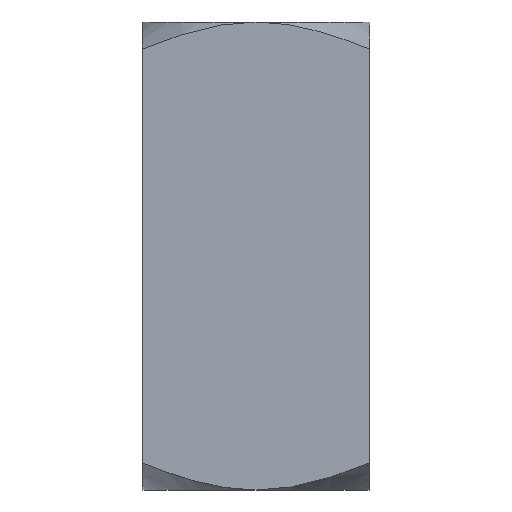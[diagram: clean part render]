
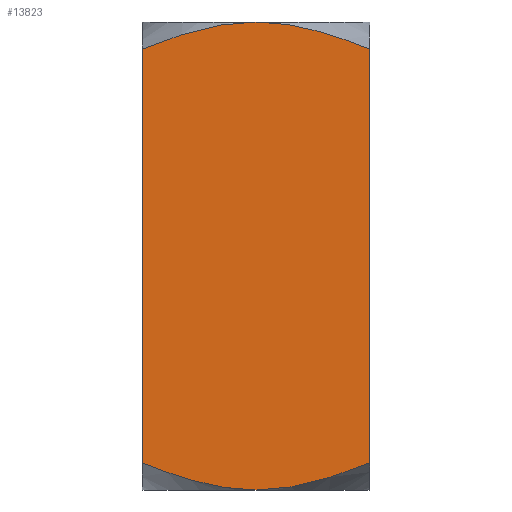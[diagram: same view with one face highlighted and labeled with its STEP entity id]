
A CAD part, front view. The second image highlights one B-rep face of the part: STEP entity #13823.
In plain terms, the highlighted planar face has unit normal (0, -1, 0).
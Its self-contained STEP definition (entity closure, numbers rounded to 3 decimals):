
#400 = CARTESIAN_POINT ( 'NONE',  ( 32.5, -32.5, -7.772 ) ) ;
#755 = CARTESIAN_POINT ( 'NONE',  ( 17.912, -32.5, -2.65 ) ) ;
#1014 = CARTESIAN_POINT ( 'NONE',  ( -1.402, -32.5, -133.987 ) ) ;
#1499 = CARTESIAN_POINT ( 'NONE',  ( -27.289, -32.5, -5.707 ) ) ;
#1616 = VERTEX_POINT ( 'NONE', #16287 ) ;
#2545 = VERTEX_POINT ( 'NONE', #16923 ) ;
#3265 = CARTESIAN_POINT ( 'NONE',  ( 0., -32.5, 0. ) ) ;
#3328 = AXIS2_PLACEMENT_3D ( 'NONE', #28530, #11454, #31356 ) ;
#3405 = CARTESIAN_POINT ( 'NONE',  ( 2.822, -32.5, -134. ) ) ;
#3648 = CARTESIAN_POINT ( 'NONE',  ( 11.123, -32.5, -1.009 ) ) ;
#3772 = CARTESIAN_POINT ( 'NONE',  ( -32.5, -32.5, -126.228 ) ) ;
#3896 = CARTESIAN_POINT ( 'NONE',  ( 0., -32.5, -134. ) ) ;
#4366 = CARTESIAN_POINT ( 'NONE',  ( -32.5, -32.5, -7.772 ) ) ;
#4522 = B_SPLINE_CURVE_WITH_KNOTS ( 'NONE', 3,
 ( #21379, #24007, #7152, #27101, #10021, #29966, #12896, #32777, #15768, #35600, #18641, #1499, #21502, #4366 ),
 .UNSPECIFIED., .F., .F.,
 ( 4, 2, 2, 2, 2, 2, 4 ),
 ( 0.118, 0.12, 0.122, 0.126, 0.135, 0.143, 0.151 ),
 .UNSPECIFIED. ) ;
#5051 = FACE_OUTER_BOUND ( 'NONE', #20521, .T. ) ;
#5823 = VERTEX_POINT ( 'NONE', #32790 ) ;
#5855 = EDGE_CURVE ( 'NONE', #2545, #1616, #33421, .T. ) ;
#6388 = CARTESIAN_POINT ( 'NONE',  ( 29.904, -32.5, -6.712 ) ) ;
#6417 = CARTESIAN_POINT ( 'NONE',  ( 11.123, -32.5, -132.991 ) ) ;
#6501 = CARTESIAN_POINT ( 'NONE',  ( 2.822, -32.5, 0. ) ) ;
#6604 = VERTEX_POINT ( 'NONE', #3265 ) ;
#6641 = CARTESIAN_POINT ( 'NONE',  ( -27.289, -32.5, -128.293 ) ) ;
#7152 = CARTESIAN_POINT ( 'NONE',  ( -1.402, -32.5, -0.013 ) ) ;
#7783 = VECTOR ( 'NONE', #34169, 1000. ) ;
#9290 = CARTESIAN_POINT ( 'NONE',  ( 17.912, -32.5, -131.35 ) ) ;
#9528 = CARTESIAN_POINT ( 'NONE',  ( -19.305, -32.5, -130.984 ) ) ;
#10021 = CARTESIAN_POINT ( 'NONE',  ( -3.517, -32.5, -0.105 ) ) ;
#10751 = VECTOR ( 'NONE', #17167, 1000. ) ;
#11454 = DIRECTION ( 'NONE',  ( 0., -1., 0. ) ) ;
#11457 = ORIENTED_EDGE ( 'NONE', *, *, #14591, .T. ) ;
#12050 = CARTESIAN_POINT ( 'NONE',  ( 0., -32.5, -134. ) ) ;
#12179 = CARTESIAN_POINT ( 'NONE',  ( 21.947, -32.5, -130.132 ) ) ;
#12401 = CARTESIAN_POINT ( 'NONE',  ( -11.171, -32.5, -132.983 ) ) ;
#12896 = CARTESIAN_POINT ( 'NONE',  ( -7.018, -32.5, -0.417 ) ) ;
#13823 = ADVANCED_FACE ( 'NONE', ( #5051 ), #31243, .T. ) ;
#14591 = EDGE_CURVE ( 'NONE', #2545, #5823, #30134, .T. ) ;
#15020 = CARTESIAN_POINT ( 'NONE',  ( 23.289, -32.5, -4.312 ) ) ;
#15041 = CARTESIAN_POINT ( 'NONE',  ( 27.281, -32.5, -128.296 ) ) ;
#15092 = B_SPLINE_CURVE_WITH_KNOTS ( 'NONE', 3,
 ( #12050, #3405, #23519, #6417, #26386, #9290, #29236, #12179, #32055, #15041, #34888, #17918 ),
 .UNSPECIFIED., .F., .F.,
 ( 4, 2, 2, 2, 2, 4 ),
 ( 0.069, 0.077, 0.086, 0.09, 0.094, 0.103 ),
 .UNSPECIFIED. ) ;
#15289 = CARTESIAN_POINT ( 'NONE',  ( -5.624, -32.5, -133.738 ) ) ;
#15432 = LINE ( 'NONE', #34046, #7783 ) ;
#15768 = CARTESIAN_POINT ( 'NONE',  ( -13.901, -32.5, -1.597 ) ) ;
#16287 = CARTESIAN_POINT ( 'NONE',  ( -32.5, -32.5, -7.772 ) ) ;
#16923 = CARTESIAN_POINT ( 'NONE',  ( -32.5, -32.5, -126.228 ) ) ;
#17167 = DIRECTION ( 'NONE',  ( 0., 0., 1. ) ) ;
#17890 = CARTESIAN_POINT ( 'NONE',  ( 19.26, -32.5, -3.038 ) ) ;
#17918 = CARTESIAN_POINT ( 'NONE',  ( 32.5, -32.5, -126.228 ) ) ;
#17969 = EDGE_CURVE ( 'NONE', #34982, #6604, #23798, .T. ) ;
#18138 = CARTESIAN_POINT ( 'NONE',  ( -2.81, -32.5, -133.934 ) ) ;
#18641 = CARTESIAN_POINT ( 'NONE',  ( -21.98, -32.5, -3.856 ) ) ;
#19265 = CARTESIAN_POINT ( 'NONE',  ( -32.5, -32.5, -134. ) ) ;
#20305 = EDGE_CURVE ( 'NONE', #6604, #1616, #4522, .T. ) ;
#20521 = EDGE_LOOP ( 'NONE', ( #34179, #11457, #31688, #33118, #25830, #21993 ) ) ;
#20749 = CARTESIAN_POINT ( 'NONE',  ( 13.851, -32.5, -1.586 ) ) ;
#21011 = CARTESIAN_POINT ( 'NONE',  ( -0.7, -32.5, -134. ) ) ;
#21071 = EDGE_CURVE ( 'NONE', #5823, #21475, #15092, .T. ) ;
#21379 = CARTESIAN_POINT ( 'NONE',  ( 0., -32.5, 0. ) ) ;
#21475 = VERTEX_POINT ( 'NONE', #23245 ) ;
#21502 = CARTESIAN_POINT ( 'NONE',  ( -29.906, -32.5, -6.713 ) ) ;
#21993 = ORIENTED_EDGE ( 'NONE', *, *, #20305, .T. ) ;
#23245 = CARTESIAN_POINT ( 'NONE',  ( 32.5, -32.5, -126.228 ) ) ;
#23519 = CARTESIAN_POINT ( 'NONE',  ( 5.608, -32.5, -133.785 ) ) ;
#23634 = CARTESIAN_POINT ( 'NONE',  ( 5.608, -32.5, -0.215 ) ) ;
#23760 = CARTESIAN_POINT ( 'NONE',  ( -29.906, -32.5, -127.287 ) ) ;
#23798 = B_SPLINE_CURVE_WITH_KNOTS ( 'NONE', 3,
 ( #26353, #6388, #32029, #15020, #34863, #17890, #755, #20749, #3648, #23634, #6501, #26482 ),
 .UNSPECIFIED., .F., .F.,
 ( 4, 2, 2, 2, 2, 4 ),
 ( 0.085, 0.093, 0.097, 0.101, 0.11, 0.118 ),
 .UNSPECIFIED. ) ;
#24007 = CARTESIAN_POINT ( 'NONE',  ( -0.7, -32.5, 0. ) ) ;
#25830 = ORIENTED_EDGE ( 'NONE', *, *, #17969, .T. ) ;
#26353 = CARTESIAN_POINT ( 'NONE',  ( 32.5, -32.5, -7.772 ) ) ;
#26386 = CARTESIAN_POINT ( 'NONE',  ( 13.851, -32.5, -132.414 ) ) ;
#26482 = CARTESIAN_POINT ( 'NONE',  ( 0., -32.5, 0. ) ) ;
#26603 = CARTESIAN_POINT ( 'NONE',  ( -21.98, -32.5, -130.144 ) ) ;
#27101 = CARTESIAN_POINT ( 'NONE',  ( -2.81, -32.5, -0.066 ) ) ;
#28530 = CARTESIAN_POINT ( 'NONE',  ( -32.5, -32.5, -134. ) ) ;
#29236 = CARTESIAN_POINT ( 'NONE',  ( 19.26, -32.5, -130.962 ) ) ;
#29476 = CARTESIAN_POINT ( 'NONE',  ( -13.901, -32.5, -132.403 ) ) ;
#29966 = CARTESIAN_POINT ( 'NONE',  ( -5.624, -32.5, -0.262 ) ) ;
#30134 = B_SPLINE_CURVE_WITH_KNOTS ( 'NONE', 3,
 ( #3772, #23760, #6641, #26603, #9528, #29476, #12401, #32284, #15289, #35116, #18138, #1014, #21011, #3896 ),
 .UNSPECIFIED., .F., .F.,
 ( 4, 2, 2, 2, 2, 2, 4 ),
 ( 0.035, 0.043, 0.052, 0.06, 0.064, 0.067, 0.069 ),
 .UNSPECIFIED. ) ;
#31243 = PLANE ( 'NONE',  #3328 ) ;
#31356 = DIRECTION ( 'NONE',  ( 0., 0., -1. ) ) ;
#31688 = ORIENTED_EDGE ( 'NONE', *, *, #21071, .T. ) ;
#32029 = CARTESIAN_POINT ( 'NONE',  ( 27.281, -32.5, -5.704 ) ) ;
#32055 = CARTESIAN_POINT ( 'NONE',  ( 23.289, -32.5, -129.688 ) ) ;
#32257 = EDGE_CURVE ( 'NONE', #21475, #34982, #15432, .T. ) ;
#32284 = CARTESIAN_POINT ( 'NONE',  ( -7.018, -32.5, -133.583 ) ) ;
#32777 = CARTESIAN_POINT ( 'NONE',  ( -11.171, -32.5, -1.017 ) ) ;
#32790 = CARTESIAN_POINT ( 'NONE',  ( 0., -32.5, -134. ) ) ;
#33118 = ORIENTED_EDGE ( 'NONE', *, *, #32257, .T. ) ;
#33421 = LINE ( 'NONE', #19265, #10751 ) ;
#34046 = CARTESIAN_POINT ( 'NONE',  ( 32.5, -32.5, -134. ) ) ;
#34169 = DIRECTION ( 'NONE',  ( 0., 0., 1. ) ) ;
#34179 = ORIENTED_EDGE ( 'NONE', *, *, #5855, .F. ) ;
#34863 = CARTESIAN_POINT ( 'NONE',  ( 21.947, -32.5, -3.868 ) ) ;
#34888 = CARTESIAN_POINT ( 'NONE',  ( 29.904, -32.5, -127.288 ) ) ;
#34982 = VERTEX_POINT ( 'NONE', #400 ) ;
#35116 = CARTESIAN_POINT ( 'NONE',  ( -3.517, -32.5, -133.895 ) ) ;
#35600 = CARTESIAN_POINT ( 'NONE',  ( -19.305, -32.5, -3.016 ) ) ;
